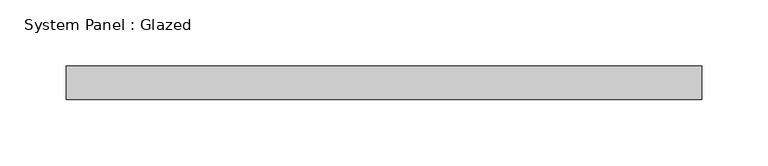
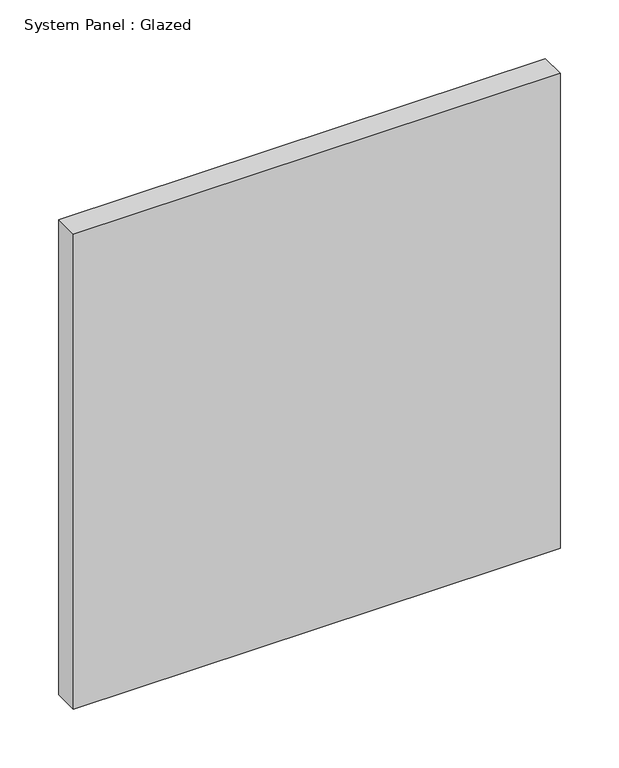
"""IFC4 building model written with IfcOpenShell, lengths in millimetres: plate geometry, System Panel : Glazed."""

import ifcopenshell
import ifcopenshell.guid

model = None  # the IFC model being written
_history = None  # IfcOwnerHistory: only IFC2X3 demands one
_inside = {}  # id of a spatial element -> (the spatial element, [elements in it])
_under = {}  # id of a project, library or spatial element -> (it, [spatial elements below it])
_declared = {}  # id of a project -> (the project, [libraries it declares])
_typed = {}  # id of a type object -> (the type object, [elements of that type])
_made_of = {}  # id of a material, layer set ... -> (it, [elements and type objects made of it])


def new_model(schema):
    """Start an empty IFC model of exactly this schema.

    Asked for "IFC4X3", IfcOpenShell would pick the latest addendum, in which some entities
    have other attributes; the version numbers below select the first issue.
    IFC2X3 requires an IfcOwnerHistory on every rooted entity: one is made here for all.
    """
    global model, _history
    if schema == "IFC4X3":
        model = ifcopenshell.file(schema_version=(4, 3, 0, 0))
    else:
        model = ifcopenshell.file(schema=schema)
    _inside.clear()
    _under.clear()
    _declared.clear()
    _typed.clear()
    _made_of.clear()
    _history = None
    if model.schema == "IFC2X3":
        org = make("IfcOrganization", Name="unknown")
        user = make(
            "IfcPersonAndOrganization",
            ThePerson=make("IfcPerson", FamilyName="unknown"),
            TheOrganization=org,
        )
        app = make(
            "IfcApplication",
            ApplicationDeveloper=org,
            Version="unknown",
            ApplicationFullName="unknown",
            ApplicationIdentifier="unknown",
        )
        _history = make(
            "IfcOwnerHistory",
            OwningUser=user,
            OwningApplication=app,
            ChangeAction="ADDED",
            CreationDate=0,
        )
    return model


def make(cls, **values):
    """One entity of the class cls with the attributes given. An attribute that is None is left unset."""
    return model.create_entity(
        cls, **{name: value for name, value in values.items() if value is not None}
    )


def rooted(cls, **values):
    """An entity with a GlobalId (a new one), such as an element, a storey or a relation."""
    return make(cls, GlobalId=ifcopenshell.guid.new(), OwnerHistory=_history, **values)


def si_unit(unit_type, name, prefix=None):
    """IfcSIUnit, for example si_unit("LENGTHUNIT", "METRE", prefix="MILLI")."""
    return make("IfcSIUnit", UnitType=unit_type, Prefix=prefix, Name=name)


def assignment(units):
    """IfcUnitAssignment: the units of a project."""
    return None if units is None else make("IfcUnitAssignment", Units=units)


def point(xyz):
    """IfcCartesianPoint."""
    return None if xyz is None else make("IfcCartesianPoint", Coordinates=xyz)


def direction(xyz):
    """IfcDirection."""
    return None if xyz is None else make("IfcDirection", DirectionRatios=xyz)


def frame(location, z_axis=None, x_axis=None):
    """IfcAxis2Placement3D, a coordinate frame: its origin and axes. An axis left out is left unset."""
    return make(
        "IfcAxis2Placement3D",
        Location=point(location),
        Axis=direction(z_axis),
        RefDirection=direction(x_axis),
    )


def origin():
    """The frame at (0, 0, 0) with its axes left unset."""
    return frame((0.0, 0.0, 0.0))


def origin_with_axes():
    """The frame at (0, 0, 0) with the z axis (0, 0, 1) and the x axis (1, 0, 0) written out."""
    return frame((0.0, 0.0, 0.0), z_axis=(0.0, 0.0, 1.0), x_axis=(1.0, 0.0, 0.0))


def place(relative_to, where):
    """IfcLocalPlacement: puts the frame where relative to a parent placement (None: the world)."""
    return make(
        "IfcLocalPlacement", PlacementRelTo=relative_to, RelativePlacement=where
    )


def context(
    kind, dimensions, precision=None, world=None, true_north=None, identifier=None
):
    """IfcGeometricRepresentationContext, for example the 3D "Model" context."""
    return make(
        "IfcGeometricRepresentationContext",
        ContextIdentifier=identifier,
        ContextType=kind,
        CoordinateSpaceDimension=dimensions,
        Precision=precision,
        WorldCoordinateSystem=world,
        TrueNorth=true_north,
    )


def project(units=None, contexts=None):
    """IfcProject with its units and contexts."""
    return rooted(
        "IfcProject",
        Name="project",
        RepresentationContexts=contexts,
        UnitsInContext=assignment(units),
    )


def spatial(cls, under=None, at=None, **own):
    """A site, building, storey or space (cls), placed at a placement, below another one or the project."""
    s = rooted(cls, ObjectPlacement=at, **own)
    if under is not None:
        _under.setdefault(under.id(), (under, []))[1].append(s)
    return s


def polyline(points):
    """IfcPolyline through the points."""
    return make("IfcPolyline", Points=[point(p) for p in points])


def outline(outer, holes=None, kind="AREA"):
    """IfcArbitraryClosedProfileDef: a profile drawn as a closed curve; with holes, ...WithVoids."""
    if holes is None:
        return make("IfcArbitraryClosedProfileDef", ProfileType=kind, OuterCurve=outer)
    return make(
        "IfcArbitraryProfileDefWithVoids",
        ProfileType=kind,
        OuterCurve=outer,
        InnerCurves=holes,
    )


def extrude(swept, where, along, depth):
    """IfcExtrudedAreaSolid: the profile swept, set in the frame where, extruded along a direction by depth."""
    return make(
        "IfcExtrudedAreaSolid",
        SweptArea=swept,
        Position=where,
        ExtrudedDirection=direction(along),
        Depth=depth,
    )


def shape(context_of_items, identifier, shape_type, items):
    """IfcShapeRepresentation: the items that make up one representation, for example the "Body"."""
    return make(
        "IfcShapeRepresentation",
        ContextOfItems=context_of_items,
        RepresentationIdentifier=identifier,
        RepresentationType=shape_type,
        Items=items,
    )


def source(mapping_origin, context_of_items, identifier, shape_type, items):
    """IfcRepresentationMap: a shape defined once, which mapped items show again and again."""
    return make(
        "IfcRepresentationMap",
        MappingOrigin=mapping_origin,
        MappedRepresentation=shape(context_of_items, identifier, shape_type, items),
    )


def transform(
    local_origin,
    x_axis=None,
    y_axis=None,
    z_axis=None,
    scale=None,
    scale2=None,
    scale3=None,
    uniform=True,
):
    """IfcCartesianTransformationOperator3D, or its non-uniform kind. x_axis, y_axis, z_axis: its Axis1, 2, 3."""
    if uniform:
        return make(
            "IfcCartesianTransformationOperator3D",
            Axis1=direction(x_axis),
            Axis2=direction(y_axis),
            LocalOrigin=point(local_origin),
            Scale=scale,
            Axis3=direction(z_axis),
        )
    return make(
        "IfcCartesianTransformationOperator3DnonUniform",
        Axis1=direction(x_axis),
        Axis2=direction(y_axis),
        LocalOrigin=point(local_origin),
        Scale=scale,
        Axis3=direction(z_axis),
        Scale2=scale2,
        Scale3=scale3,
    )


def mapped(mapping_source, mapping_target):
    """IfcMappedItem: shows the shape of a source again, moved by a transform."""
    return make(
        "IfcMappedItem", MappingSource=mapping_source, MappingTarget=mapping_target
    )


def made_of(thing, what):
    """Note that an element or type object is made of a material, layer set ...; save() writes the relation."""
    if what is not None:
        _made_of.setdefault(what.id(), (what, []))[1].append(thing)
    return thing


def element(
    cls,
    number,
    at=None,
    inside=None,
    cuts=None,
    type_object=None,
    material=None,
    context=None,
    identifier="Body",
    shape_type=None,
    held_by="IfcProductDefinitionShape",
    body=None,
    shapes=None,
    **own,
):
    """One element of the class cls, such as IfcWall. Its Tag is "e" and its number.

    at: its placement. inside: the storey or other place that contains it. cuts: it is an
    opening in that element (IfcRelVoidsElement). A single representation is given by context,
    identifier, shape_type and body (its items); several are given by shapes. held_by: the class
    of the entity that holds the representations. save() writes the other relations.
    """
    e = rooted(cls, Tag="e%d" % number, ObjectPlacement=at, **own)
    if body is not None:
        shapes = [shape(context, identifier, shape_type, body)]
    if shapes is not None:
        e.Representation = make(held_by, Representations=shapes)
    if inside is not None:
        _inside.setdefault(inside.id(), (inside, []))[1].append(e)
    if cuts is not None:
        rooted(
            "IfcRelVoidsElement", RelatingBuildingElement=cuts, RelatedOpeningElement=e
        )
    if type_object is not None:
        _typed.setdefault(type_object.id(), (type_object, []))[1].append(e)
    return made_of(e, material)


def aggregate(whole, parts):
    """IfcRelAggregates: a whole, such as a stair, and the parts it consists of."""
    return rooted("IfcRelAggregates", RelatingObject=whole, RelatedObjects=parts)


def save(model, path):
    """Write the relations noted so far, then the file.

    IfcRelAggregates (storeys below a building ...), IfcRelContainedInSpatialStructure (elements
    in a storey), IfcRelDefinesByType, IfcRelAssociatesMaterial and IfcRelDeclares: one each for
    every whole, place, type object, material and project.
    """
    for whole, parts in _under.values():
        aggregate(whole, parts)
    for where, things in _inside.values():
        rooted(
            "IfcRelContainedInSpatialStructure",
            RelatedElements=things,
            RelatingStructure=where,
        )
    for kind, things in _typed.values():
        rooted("IfcRelDefinesByType", RelatedObjects=things, RelatingType=kind)
    for what, things in _made_of.values():
        rooted("IfcRelAssociatesMaterial", RelatedObjects=things, RelatingMaterial=what)
    for by, libraries in _declared.values():
        rooted("IfcRelDeclares", RelatingContext=by, RelatedDefinitions=libraries)
    model.write(path)


def system_panel_glazed_79ade883(model_context):
    return source(origin(), model_context, "Body", "SweptSolid", [
        extrude(outline(polyline([(240.03, -12.7), (-240.03, -12.7), (-240.03, 12.7), (240.03, 12.7), (240.03, -12.7)])), origin_with_axes(), (0.0, 0.0, 1.0), 495.3),
    ])


if __name__ == "__main__":
    model = new_model("IFC4")
    model_context = context("Model", 3, world=origin())
    ifc_project = project(units=[si_unit("LENGTHUNIT", "METRE", prefix="MILLI")], contexts=[model_context])
    site = spatial("IfcSite", under=ifc_project)
    building = spatial("IfcBuilding", under=site)
    placement = place(None, origin())
    system_panel_glazed_shape = system_panel_glazed_79ade883(model_context)
    element("IfcPlate", 1, ObjectType="System Panel : Glazed", at=placement, inside=building, context=model_context, shape_type="MappedRepresentation", body=[
        mapped(system_panel_glazed_shape, transform((0.0, 0.0, 0.0), x_axis=(1.0, 0.0, 0.0), y_axis=(0.0, 1.0, 0.0), z_axis=(0.0, 0.0, 1.0))),
    ])
    save(model, "model.ifc")
